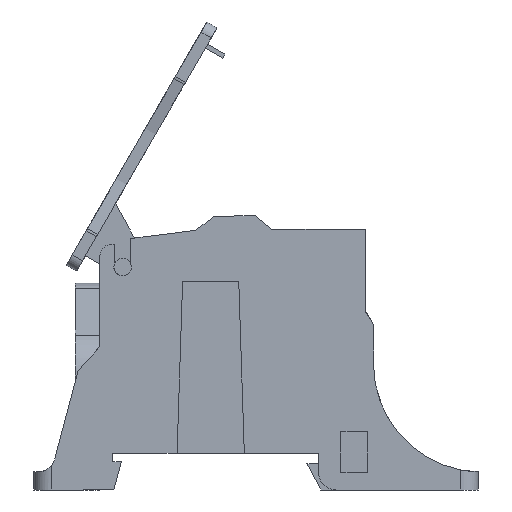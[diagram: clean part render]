
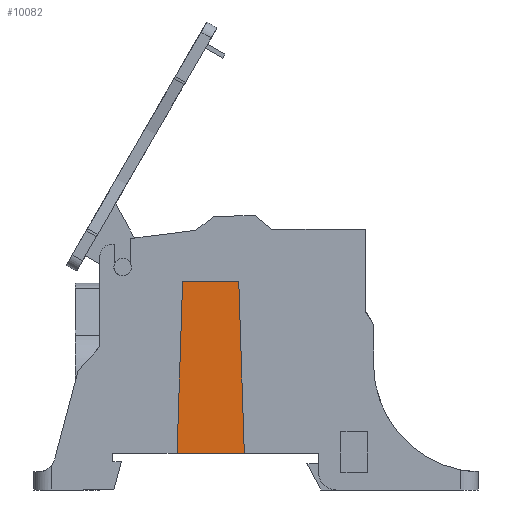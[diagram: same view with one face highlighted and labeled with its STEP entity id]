
A CAD part, front view. The second image highlights one B-rep face of the part: STEP entity #10082.
In plain terms, the highlighted planar face has unit normal (0, -1, 0).
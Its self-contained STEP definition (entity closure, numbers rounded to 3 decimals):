
#171 = CARTESIAN_POINT ( 'NONE',  ( -2., -16.5, 6.3 ) ) ;
#176 = PLANE ( 'NONE',  #5619 ) ;
#181 = DIRECTION ( 'NONE',  ( 0., -1., 0. ) ) ;
#182 = DIRECTION ( 'NONE',  ( 0., 0., -1. ) ) ;
#1171 = VERTEX_POINT ( 'NONE', #1830 ) ;
#1173 = VERTEX_POINT ( 'NONE', #1832 ) ;
#1512 = VERTEX_POINT ( 'NONE', #2171 ) ;
#1541 = VERTEX_POINT ( 'NONE', #2200 ) ;
#1830 = CARTESIAN_POINT ( 'NONE',  ( -2., -16.5, 6.3 ) ) ;
#1832 = CARTESIAN_POINT ( 'NONE',  ( -13.5, -16.5, 6.3 ) ) ;
#2171 = CARTESIAN_POINT ( 'NONE',  ( -12.55, -16.5, 35.6 ) ) ;
#2200 = CARTESIAN_POINT ( 'NONE',  ( -2.95, -16.5, 35.6 ) ) ;
#3069 = EDGE_CURVE ( 'NONE', #1173, #1171, #6017, .T. ) ;
#3114 = EDGE_CURVE ( 'NONE', #1541, #1512, #6090, .T. ) ;
#3115 = EDGE_CURVE ( 'NONE', #1171, #1541, #6092, .T. ) ;
#3120 = EDGE_CURVE ( 'NONE', #1512, #1173, #6099, .T. ) ;
#5619 = AXIS2_PLACEMENT_3D ( 'NONE', #171, #181, #182 ) ;
#6017 = LINE ( 'NONE', #6554, #6018 ) ;
#6018 = VECTOR ( 'NONE', #6555, 1000. ) ;
#6090 = LINE ( 'NONE', #6683, #6091 ) ;
#6091 = VECTOR ( 'NONE', #6684, 1000. ) ;
#6092 = LINE ( 'NONE', #6685, #6093 ) ;
#6093 = VECTOR ( 'NONE', #6686, 1000. ) ;
#6099 = LINE ( 'NONE', #6678, #6101 ) ;
#6101 = VECTOR ( 'NONE', #6697, 1000. ) ;
#6554 = CARTESIAN_POINT ( 'NONE',  ( -13.5, -16.5, 6.3 ) ) ;
#6555 = DIRECTION ( 'NONE',  ( 1., 0., 0. ) ) ;
#6678 = CARTESIAN_POINT ( 'NONE',  ( -12.55, -16.5, 35.6 ) ) ;
#6683 = CARTESIAN_POINT ( 'NONE',  ( -2.95, -16.5, 35.6 ) ) ;
#6684 = DIRECTION ( 'NONE',  ( -1., 0., 0. ) ) ;
#6685 = CARTESIAN_POINT ( 'NONE',  ( -2.95, -16.5, 35.6 ) ) ;
#6686 = DIRECTION ( 'NONE',  ( -0.032, 0., 0.999 ) ) ;
#6697 = DIRECTION ( 'NONE',  ( -0.032, 0., -0.999 ) ) ;
#8741 = ORIENTED_EDGE ( 'NONE', *, *, #3115, .T. ) ;
#8742 = ORIENTED_EDGE ( 'NONE', *, *, #3114, .T. ) ;
#8743 = ORIENTED_EDGE ( 'NONE', *, *, #3120, .T. ) ;
#8744 = ORIENTED_EDGE ( 'NONE', *, *, #3069, .T. ) ;
#9585 = EDGE_LOOP ( 'NONE', ( #8741, #8742, #8743, #8744 ) ) ;
#10082 = ADVANCED_FACE ( 'NONE', ( #12037 ), #176, .T. ) ;
#12037 = FACE_OUTER_BOUND ( 'NONE', #9585, .T. ) ;
